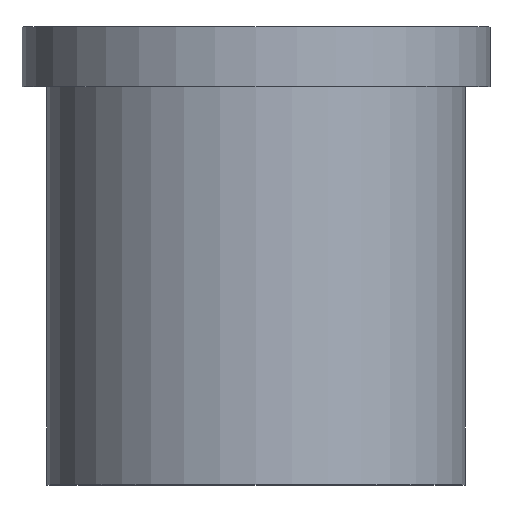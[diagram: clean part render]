
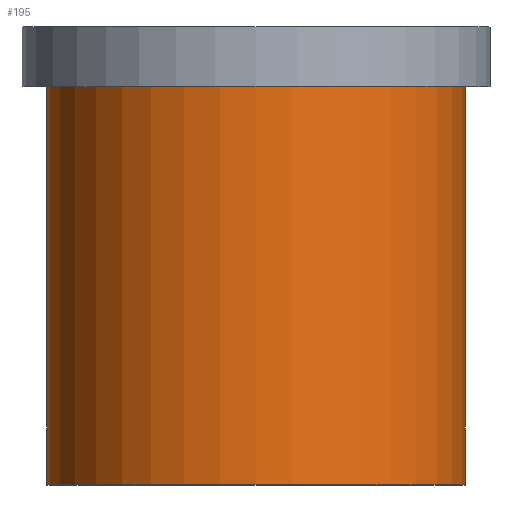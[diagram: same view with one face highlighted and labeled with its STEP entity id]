
A CAD part, top view. The second image highlights one B-rep face of the part: STEP entity #195.
In plain terms, the highlighted cylindrical face has radius 21 mm (diameter 42 mm), a full revolution.
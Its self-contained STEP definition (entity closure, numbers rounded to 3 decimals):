
#32=ORIENTED_EDGE('',*,*,#50,.T.);
#33=ORIENTED_EDGE('',*,*,#49,.F.);
#49=EDGE_CURVE('',#59,#59,#69,.T.);
#50=EDGE_CURVE('',#60,#60,#70,.T.);
#59=VERTEX_POINT('',#280);
#60=VERTEX_POINT('',#283);
#69=CIRCLE('',#213,21.);
#70=CIRCLE('',#215,21.);
#82=EDGE_LOOP('',(#32));
#83=EDGE_LOOP('',(#33));
#102=FACE_BOUND('',#82,.T.);
#103=FACE_BOUND('',#83,.T.);
#117=CYLINDRICAL_SURFACE('',#214,21.);
#195=ADVANCED_FACE('',(#102,#103),#117,.T.);
#213=AXIS2_PLACEMENT_3D('',#279,#241,#242);
#214=AXIS2_PLACEMENT_3D('',#281,#243,#244);
#215=AXIS2_PLACEMENT_3D('',#282,#245,#246);
#241=DIRECTION('',(0.,-1.,0.));
#242=DIRECTION('',(0.,0.,-1.));
#243=DIRECTION('',(0.,-1.,0.));
#244=DIRECTION('',(0.,0.,-1.));
#245=DIRECTION('',(0.,-1.,0.));
#246=DIRECTION('',(0.,0.,-1.));
#279=CARTESIAN_POINT('',(0.,0.,0.));
#280=CARTESIAN_POINT('',(0.,0.,-21.));
#281=CARTESIAN_POINT('',(0.,0.,0.));
#282=CARTESIAN_POINT('',(0.,40.,0.));
#283=CARTESIAN_POINT('',(0.,40.,-21.));
